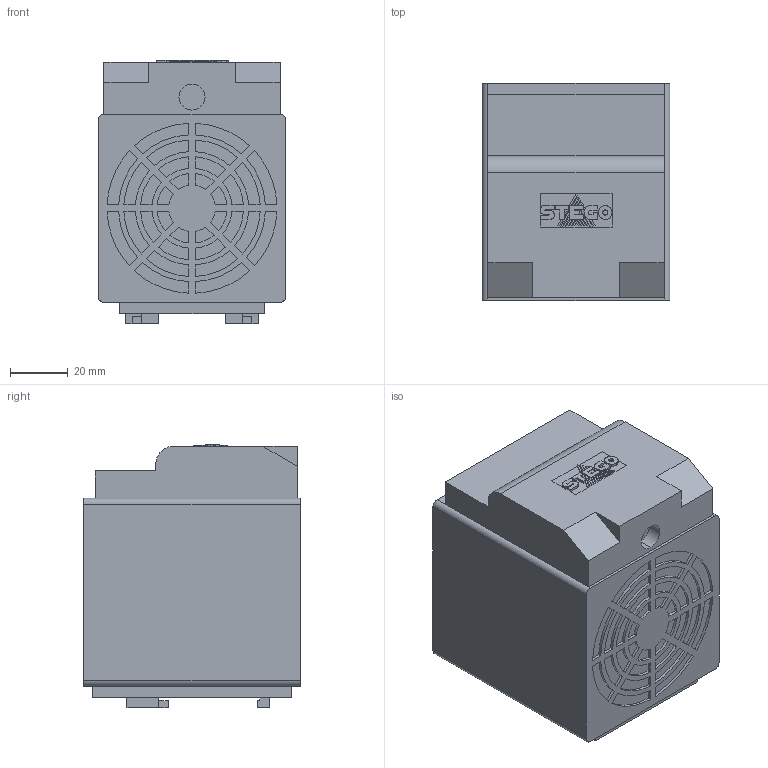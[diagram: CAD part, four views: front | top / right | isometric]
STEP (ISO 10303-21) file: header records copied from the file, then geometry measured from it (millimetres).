
FILE_DESCRIPTION (( 'STEP AP214' ), '1' );
FILE_NAME ('CS028_EPLAN_07_2013.STEP', '2013-07-24T06:58:33', ( '' ), ( '' ), 'SwSTEP 2.0', 'SolidWorks 2013', '' );
FILE_SCHEMA (( 'AUTOMOTIVE_DESIGN' ));
Length unit declared in the file: millimetre
Products named in the file (1): CS028_EPLAN_07_2013
Bounding box: 65 x 75 x 91.25 mm (x, y, z)
Volume: 391831.7 mm3; surface area: 36524.3 mm2
Topology: 2 solids, 2 shells, 535 faces, 1398 edges, 928 vertices
Faces by surface type: plane 350, cylinder 139, bspline 46
Entity records: 16631 total; most frequent: CARTESIAN_POINT 3439, ORIENTED_EDGE 2796, DIRECTION 2564, EDGE_CURVE 1398, VECTOR 1026, LINE 1026, VERTEX_POINT 928, AXIS2_PLACEMENT_3D 769
